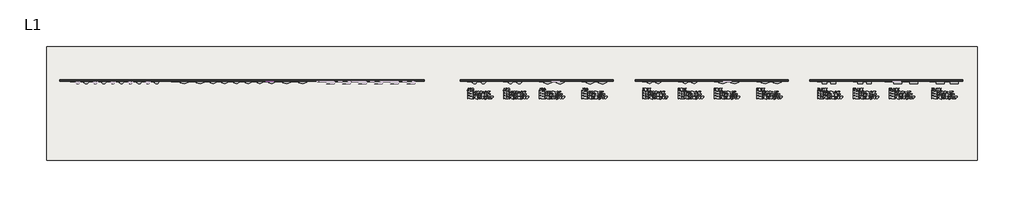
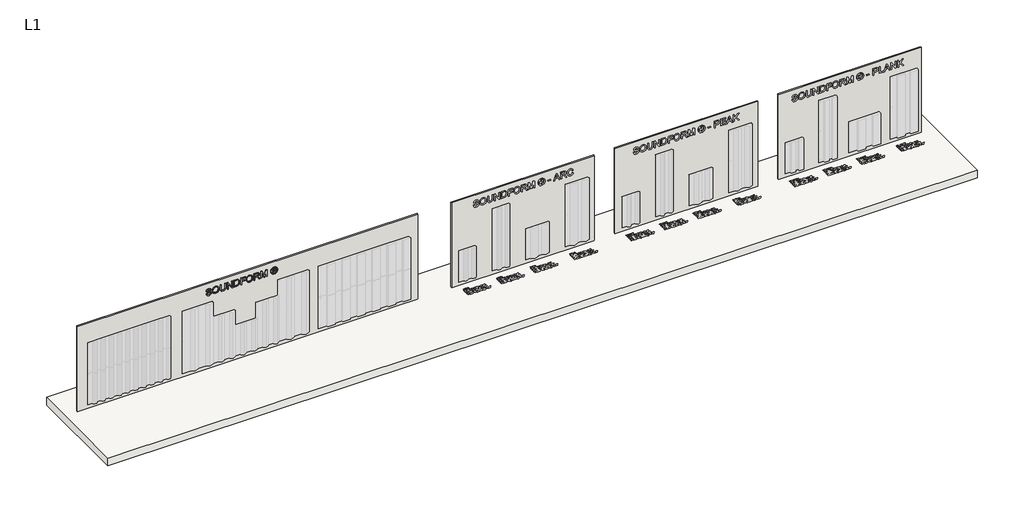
# One storey, part 1 of 17: 4 walls, 1 proxy, 1 slab.
"""IFC4 building model written with IfcOpenShell, lengths in millimetres."""

from ifc_helpers import new_model, si_unit, frame, origin, origin_with_axes, place, context, project, spatial, polyline, outline, extrude, element, save

model = new_model("IFC4")

# Units and contexts
model_context = context("Model", 3, world=origin())
ifc_project = project(units=[si_unit("LENGTHUNIT", "METRE", prefix="MILLI")], contexts=[model_context])

# Site, building, storey
site = spatial("IfcSite", under=ifc_project)
building = spatial("IfcBuilding", under=site)
storey = spatial("IfcBuildingStorey", under=building, Name="L1", Elevation=0.0)

# Proxy
placement = place(None, origin())
element("IfcBuildingElementProxy", 1, Name="10\" Arial", ObjectType="10\" Arial", at=placement, inside=storey, context=model_context, shape_type="SweptSolid", body=[
    extrude(outline(polyline([(2966.4315697, -7877.4400727), (2940.6727176, -7873.6556706), (2917.7171264, -7863.6729474), (2898.8729843, -7848.1226368), (2885.4484798, -7827.6354724), (2877.4124655, -7801.9155546), (2874.7337941, -7770.6669834), (2877.2177946, -7745.211818), (2884.6697962, -7722.4197503), (2896.5992283, -7703.4665925), (2912.5155202, -7689.5281569), (2931.0092547, -7680.9548509), (2950.6710145, -7678.0970822), (2969.9044983, -7680.5810828), (2986.7396368, -7688.0330844), (3001.0206932, -7700.7178396), (3012.5919309, -7718.9001006), (3028.6016648, -7775.3390848), (3037.6032467, -7809.4142772), (3046.4179446, -7827.417441), (3056.2760784, -7835.0329662), (3068.5325576, -7837.5714746), (3082.907056, -7833.9895302), (3095.0077985, -7823.2436972), (3103.2306969, -7804.6643075), (3105.971663, -7777.5816934), (3103.1995495, -7751.1220262), (3094.8832091, -7732.044279), (3081.1472312, -7719.8345209), (3062.1162051, -7713.9788205), (3062.1162051, -7682.0839421), (3083.2496768, -7685.6814601), (3102.0470979, -7694.729763), (3117.5429006, -7709.0263931), (3128.7715175, -7728.3688926), (3135.5927855, -7751.9162834), (3137.8665415, -7778.8275871), (3135.6940143, -7803.6675926), (3129.176433, -7826.1092527), (3118.4617472, -7844.8054448), (3103.697907, -7858.4090466), (3086.2787558, -7866.7020265), (3067.5981373, -7869.4663531), (3050.8875882, -7867.2315313), (3035.8901429, -7860.5270658), (3022.8861275, -7849.2750885), (3012.1558681, -7833.3977307), (2996.4264603, -7783.4062464), (2984.2478494, -7736.9655591), (2977.636826, -7723.3541705), (2969.7643353, -7715.2870089), (2949.8611836, -7709.9919607), (2938.9051059, -7711.7595724), (2928.4629595, -7717.0624074), (2919.3679355, -7725.9783341), (2912.4532255, -7738.5852209), (2908.0848108, -7754.1433184), (2906.6286725, -7771.9128771), (2908.5520209, -7792.0963549), (2914.3220661, -7810.1618134), (2923.2146323, -7824.9412273), (2934.5055438, -7835.2665713), (2948.7320924, -7841.8853815), (2966.4315697, -7845.5451942), (2966.4315697, -7877.4400727)])), frame((0.0, -50.8, 0.0), z_axis=(0.0, 1.0, 0.0), x_axis=(0.0, 0.0, 1.0)), (0.0, 0.0, 1.0), 25.4),
    extrude(outline(polyline([(3002.9362548, -7642.215344), (2970.3016269, -7638.5711049), (2939.4268239, -7627.6383878), (2912.5933886, -7609.635224), (2892.0828637, -7584.7796448), (2879.0710615, -7554.5978702), (2874.7337941, -7520.6161198), (2878.6583592, -7488.6044388), (2890.4320546, -7458.8509401), (2909.8368488, -7433.4814298), (2936.6547105, -7414.6217141), (2969.2192568, -7402.9181002), (3005.864105, -7399.0168956), (3042.0261693, -7402.7234293), (3074.1390792, -7413.8430305), (3100.9102199, -7432.0330784), (3121.0469766, -7456.9509522), (3133.6616502, -7486.9614165), (3137.8665415, -7520.4292357), (3135.6278262, -7546.0751787), (3128.9116806, -7569.2526947), (3117.7181044, -7589.9617839), (3102.0470979, -7608.2024462), (3082.4203788, -7623.083089), (3059.3596653, -7633.7121195), (3032.8649573, -7640.0895379), (3002.9362548, -7642.215344)]), holes=[polyline([(3002.6247814, -7610.3204655), (3028.4790222, -7608.6579761), (3050.3502965, -7603.6705079), (3068.2386045, -7595.358061), (3082.1439462, -7583.7206352), (3092.5685723, -7569.7783061), (3100.0147338, -7554.5511492), (3105.971663, -7520.2423517), (3102.8802893, -7495.5502961), (3093.6061681, -7473.4278963), (3078.7099517, -7455.0898985), (3058.7522921, -7441.7510492), (3034.3483495, -7433.6215929), (3006.1132837, -7430.9117741), (2983.6443697, -7432.4944484), (2963.8930613, -7437.2424714), (2946.8593585, -7445.155843), (2932.5432613, -7456.2345633), (2921.2056287, -7469.7661368), (2913.1073197, -7485.0380681), (2908.2483343, -7502.0503571), (2906.6286725, -7520.8030038), (2908.2327607, -7539.2402837), (2913.045025, -7556.0540084), (2921.0654657, -7571.2441779), (2932.2940825, -7584.8107922), (2946.31428, -7595.9712743), (2962.7094623, -7603.9430472), (2981.4796294, -7608.7261109), (3002.6247814, -7610.3204655)])]), frame((0.0, -50.8, 0.0), z_axis=(0.0, 1.0, 0.0), x_axis=(0.0, 0.0, 1.0)), (0.0, 0.0, 1.0), 25.4),
    extrude(outline(polyline([(3133.8796816, -7187.7133257), (2987.7986465, -7187.7133257), (2947.8677537, -7191.7469066), (2933.695713, -7196.7888826), (2923.3859427, -7203.847649), (2916.054637, -7213.2736135), (2910.8179901, -7225.4171835), (2906.6286725, -7257.8571405), (2908.7466918, -7278.3209444), (2915.1007496, -7295.3585406), (2925.3560121, -7308.4248507), (2939.1776452, -7316.9747961), (2959.1353047, -7321.6936185), (2987.7986465, -7323.2665592), (3133.8796816, -7323.2665592), (3133.8796816, -7355.1614377), (2986.6773421, -7355.1614377), (2950.4607699, -7352.7397318), (2922.7941432, -7345.4746143), (2902.1668157, -7332.5484672), (2887.0681416, -7313.143673), (2877.8173809, -7287.2524448), (2874.7337941, -7254.8669956), (2878.2768042, -7221.7573708), (2888.9058348, -7195.6870453), (2905.1803211, -7176.6092982), (2925.6596986, -7164.4774084), (2952.2050211, -7157.9831875), (2986.6773421, -7155.8184473), (3133.8796816, -7155.8184473), (3133.8796816, -7187.7133257)])), frame((0.0, -50.8, 0.0), z_axis=(0.0, 1.0, 0.0), x_axis=(0.0, 0.0, 1.0)), (0.0, 0.0, 1.0), 25.4),
    extrude(outline(polyline([(2878.7206539, -7100.0024099), (2878.7206539, -7068.1075315), (3080.9291998, -7068.1075315), (2878.7206539, -6934.7969066), (2878.7206539, -6900.6594195), (3133.8796816, -6900.6594195), (3133.8796816, -6932.5542979), (2931.7334304, -6932.5542979), (3133.8796816, -7065.8649228), (3133.8796816, -7100.0024099), (2878.7206539, -7100.0024099)])), frame((0.0, -50.8, 0.0), z_axis=(0.0, 1.0, 0.0), x_axis=(0.0, 0.0, 1.0)), (0.0, 0.0, 1.0), 25.4),
    extrude(outline(polyline([(2878.7206539, -6844.8433821), (2878.7206539, -6752.5849544), (2883.0812818, -6711.5639046), (2895.8828394, -6681.0706566), (2919.0253147, -6657.7724445), (2935.6657823, -6648.0856211), (2956.1840941, -6640.3299329), (2980.2843501, -6635.2373424), (3007.6706508, -6633.5398123), (3039.9081501, -6636.0471733), (3068.3456735, -6643.5692565), (3092.5160111, -6656.1372091), (3111.9519527, -6673.7821785), (3123.1182749, -6690.9443641), (3130.2042953, -6711.2835785), (3133.8796816, -6756.8209929), (3133.8796816, -6844.8433821), (2878.7206539, -6844.8433821)]), holes=[polyline([(2910.6155323, -6812.9485037), (3101.9848032, -6812.9485037), (3101.9848032, -6757.3816451), (3100.7077621, -6730.5014887), (3096.876639, -6712.1557041), (3086.224248, -6694.1291798), (3068.5948523, -6679.0460793), (3042.9294423, -6668.8375379), (3008.1690083, -6665.4346907), (2981.9351593, -6667.1711551), (2959.9217751, -6672.3805481), (2942.0509875, -6680.7046753), (2928.2449281, -6691.7853423), (2915.225339, -6715.4573224), (2910.6155323, -6756.5095195), (2910.6155323, -6812.9485037)])]), frame((0.0, -50.8, 0.0), z_axis=(0.0, 1.0, 0.0), x_axis=(0.0, 0.0, 1.0)), (0.0, 0.0, 1.0), 25.4),
    extrude(outline(polyline([(2878.7206539, -6589.6843544), (2878.7206539, -6557.7894759), (2994.3395883, -6557.7894759), (2994.3395883, -6438.1836816), (3026.2344668, -6438.1836816), (3026.2344668, -6557.7894759), (3101.9848032, -6557.7894759), (3101.9848032, -6418.2493826), (3133.8796816, -6418.2493826), (3133.8796816, -6589.6843544), (2878.7206539, -6589.6843544)])), frame((0.0, -50.8, 0.0), z_axis=(0.0, 1.0, 0.0), x_axis=(0.0, 0.0, 1.0)), (0.0, 0.0, 1.0), 25.4),
    extrude(outline(polyline([(3002.9362548, -6386.3545041), (2970.3016269, -6382.7102651), (2939.4268239, -6371.7775479), (2912.5933886, -6353.7743841), (2892.0828637, -6328.918805), (2879.0710615, -6298.7370303), (2874.7337941, -6264.7552799), (2878.6583592, -6232.7435989), (2890.4320546, -6202.9901002), (2909.8368488, -6177.62059), (2936.6547105, -6158.7608742), (2969.2192568, -6147.0572604), (3005.864105, -6143.1560558), (3042.0261693, -6146.8625895), (3074.1390792, -6157.9821907), (3100.9102199, -6176.1722385), (3121.0469766, -6201.0901124), (3133.6616502, -6231.1005766), (3137.8665415, -6264.5683959), (3135.6278262, -6290.2143388), (3128.9116806, -6313.3918549), (3117.7181044, -6334.1009441), (3102.0470979, -6352.3416064), (3082.4203788, -6367.2222491), (3059.3596653, -6377.8512797), (3032.8649573, -6384.228698), (3002.9362548, -6386.3545041)]), holes=[polyline([(3002.6247814, -6354.4596256), (3028.4790222, -6352.7971362), (3050.3502965, -6347.8096681), (3068.2386045, -6339.4972211), (3082.1439462, -6327.8597953), (3092.5685723, -6313.9174663), (3100.0147338, -6298.6903093), (3105.971663, -6264.3815118), (3102.8802893, -6239.6894562), (3093.6061681, -6217.5670564), (3078.7099517, -6199.2290587), (3058.7522921, -6185.8902093), (3034.3483495, -6177.760753), (3006.1132837, -6175.0509342), (2983.6443697, -6176.6336086), (2963.8930613, -6181.3816315), (2946.8593585, -6189.2950032), (2932.5432613, -6200.3737235), (2921.2056287, -6213.905297), (2913.1073197, -6229.1772282), (2908.2483343, -6246.1895172), (2906.6286725, -6264.942164), (2908.2327607, -6283.3794439), (2913.045025, -6300.1931686), (2921.0654657, -6315.3833381), (2932.2940825, -6328.9499523), (2946.31428, -6340.1104344), (2962.7094623, -6348.0822073), (2981.4796294, -6352.8652711), (3002.6247814, -6354.4596256)])]), frame((0.0, -50.8, 0.0), z_axis=(0.0, 1.0, 0.0), x_axis=(0.0, 0.0, 1.0)), (0.0, 0.0, 1.0), 25.4),
    extrude(outline(polyline([(2878.7206539, -6099.3005979), (2878.7206539, -6067.4057194), (2990.3527285, -6067.4057194), (2990.3527285, -6028.9076044), (2989.2314242, -6010.406083), (2983.1576925, -5995.2373274), (2966.6184537, -5978.3866152), (2931.608841, -5954.4031617), (2878.7206539, -5921.2000948), (2878.7206539, -5884.1347575), (2947.8677537, -5926.6820271), (2980.6970524, -5952.5343211), (2994.3395883, -5970.6620743), (3002.7960918, -5939.2421928), (3018.0738631, -5917.2443824), (3038.9114351, -5904.2793011), (3064.0473403, -5899.9576074), (3084.2541786, -5902.5661973), (3102.6388974, -5910.3919671), (3117.4650323, -5922.5861516), (3126.996119, -5938.2999857), (3132.158791, -5959.7994387), (3133.8796816, -5989.3504797), (3133.8796816, -6099.3005979), (2878.7206539, -6099.3005979)]), holes=[polyline([(3022.247607, -6067.4057194), (3101.9848032, -6067.4057194), (3101.9848032, -5987.9799966), (3099.2282634, -5962.7428626), (3090.958644, -5945.3392851), (3078.4218388, -5935.2241857), (3062.8637413, -5931.8524859), (3051.5961902, -5933.6200975), (3041.2163384, -5938.9229326), (3032.6352456, -5947.6286147), (3026.7639716, -5959.6047678), (3022.247607, -5996.0160109), (3022.247607, -6067.4057194)])]), frame((0.0, -50.8, 0.0), z_axis=(0.0, 1.0, 0.0), x_axis=(0.0, 0.0, 1.0)), (0.0, 0.0, 1.0), 25.4),
    extrude(outline(polyline([(2878.7206539, -5844.1415701), (2878.7206539, -5812.2466916), (3101.9848032, -5812.2466916), (2878.7206539, -5748.0831665), (2878.7206539, -5704.9129502), (3101.9848032, -5640.8117198), (2878.7206539, -5640.8117198), (2878.7206539, -5608.9168413), (3133.8796816, -5608.9168413), (3133.8796816, -5663.7984584), (2957.1496617, -5715.1292784), (2916.4712327, -5726.5292057), (2954.0349274, -5737.1193021), (3133.8796816, -5789.4468371), (3133.8796816, -5844.1415701), (2878.7206539, -5844.1415701)])), frame((0.0, -50.8, 0.0), z_axis=(0.0, 1.0, 0.0), x_axis=(0.0, 0.0, 1.0)), (0.0, 0.0, 1.0), 25.4),
    extrude(outline(polyline([(2926.5629716, -5409.5738509), (2926.5629716, -5385.652692), (2994.3395883, -5385.652692), (2994.3395883, -5370.7642624), (2993.0936946, -5358.9749934), (2988.483888, -5350.3939006), (2951.8546135, -5326.8465098), (2926.5629716, -5312.8302058), (2926.5629716, -5285.9811968), (2958.0217873, -5303.8597713), (2989.854371, -5325.6006162), (2998.3264481, -5338.0595531), (3002.7182234, -5320.0875366), (3012.7788149, -5306.0400852), (3026.795119, -5296.9762086), (3043.0540316, -5293.9549164), (3055.0379716, -5295.7069544), (3066.3210963, -5300.9630684), (3075.618578, -5309.17818), (3081.6455887, -5319.8072105), (3086.0373639, -5358.0561468), (3086.0373639, -5409.5738509), (2926.5629716, -5409.5738509)]), holes=[polyline([(3018.2607472, -5385.652692), (3062.1162051, -5385.652692), (3062.1162051, -5357.3086106), (3059.6244177, -5332.2350001), (3052.0244662, -5321.676051), (3040.4376549, -5317.8760753), (3031.3971388, -5319.8539315), (3024.3344789, -5325.7875002), (3019.7791801, -5337.1407065), (3018.2607472, -5355.3774754), (3018.2607472, -5385.652692)])]), frame((0.0, -50.8, 0.0), z_axis=(0.0, 1.0, 0.0), x_axis=(0.0, 0.0, 1.0)), (0.0, 0.0, 1.0), 25.4),
    extrude(outline(polyline([(3137.8665415, -5349.7086591), (3133.6149292, -5382.4133684), (3120.8600926, -5414.3705416), (3100.193831, -5442.481018), (3072.207944, -5463.645637), (3039.8925764, -5476.9144048), (3006.2378731, -5481.3373274), (2972.8790695, -5476.9766995), (2940.8284543, -5463.8948158), (2912.9437962, -5442.9871623), (2892.0828637, -5415.1492252), (2879.0710615, -5383.1375441), (2874.7337941, -5349.7086591), (2879.0710615, -5316.233053), (2892.0828637, -5284.2057983), (2912.9437962, -5256.3912217), (2940.8284543, -5235.5536497), (2972.8790695, -5222.5418475), (3006.2378731, -5218.2045801), (3039.8925764, -5222.6041421), (3072.207944, -5235.8028284), (3100.193831, -5256.897366), (3120.8600926, -5284.9844819), (3133.6149292, -5316.9572287), (3137.8665415, -5349.7086591)]), holes=[polyline([(3113.9453826, -5349.7086591), (3110.4646671, -5322.9764526), (3100.0225206, -5296.8516193), (3083.1017269, -5273.8726675), (3060.1850699, -5256.5781057), (3033.7409763, -5245.7388306), (3006.2378731, -5242.1257389), (2978.9138671, -5245.6765359), (2952.7578864, -5256.328927), (2930.0125397, -5273.3898837), (2912.9204357, -5296.1663777), (2902.2213236, -5322.3690794), (2898.6549529, -5349.7086591), (2902.2213236, -5377.0093046), (2912.9204357, -5403.2197931), (2930.0125397, -5426.0352213), (2952.7578864, -5443.1506858), (2978.9138671, -5453.8497979), (3006.2378731, -5457.4161686), (3033.7409763, -5453.7797164), (3060.1850699, -5442.8703598), (3083.1017269, -5425.529077), (3100.0225206, -5402.5968462), (3110.4646671, -5376.5109471), (3113.9453826, -5349.7086591)])]), frame((0.0, -50.8, 0.0), z_axis=(0.0, 1.0, 0.0), x_axis=(0.0, 0.0, 1.0)), (0.0, 0.0, 1.0), 25.4),
])

# Slab
element("IfcSlab", 2, ObjectType="Generic - 12\"", at=placement, inside=storey, context=model_context, shape_type="SweptSolid", body=[
    extrude(outline(polyline([(19204.5931972, 1172.6688092), (19204.5931972, -2768.6), (-13104.2068028, -2768.6), (-13104.2068028, 1172.6688092), (19204.5931972, 1172.6688092)])), frame((0.0, 0.0, -304.8), z_axis=(0.0, 0.0, 1.0), x_axis=(1.0, 0.0, 0.0)), (0.0, 0.0, 1.0), 304.8),
])

# Walls
element("IfcWall", 3, ObjectType="Generic - 2\"", at=placement, inside=storey, context=model_context, shape_type="SweptSolid", body=[
    extrude(outline(polyline([(18700.75, -25.4), (13392.15, -25.4), (13392.15, 25.4), (18700.75, 25.4), (18700.75, -25.4)])), origin_with_axes(), (0.0, 0.0, 1.0), 3339.6133295),
])
element("IfcWall", 4, ObjectType="Generic - 2\"", at=placement, inside=storey, context=model_context, shape_type="SweptSolid", body=[
    extrude(outline(polyline([(6559.55, -25.4), (1250.95, -25.4), (1250.95, 25.4), (6559.55, 25.4), (6559.55, -25.4)])), origin_with_axes(), (0.0, 0.0, 1.0), 3339.6133295),
])
element("IfcWall", 5, ObjectType="Generic - 2\"", at=placement, inside=storey, context=model_context, shape_type="SweptSolid", body=[
    extrude(outline(polyline([(12630.15, -25.4), (7321.55, -25.4), (7321.55, 25.4), (12630.15, 25.4), (12630.15, -25.4)])), origin_with_axes(), (0.0, 0.0, 1.0), 3339.6133295),
])
element("IfcWall", 6, ObjectType="Generic - 2\"", at=placement, inside=storey, context=model_context, shape_type="SweptSolid", body=[
    extrude(outline(polyline([(-12650.0100552, 25.4), (-0.8100552, 25.4), (-0.8100552, -25.4), (-12650.0100552, -25.4), (-12650.0100552, 25.4)])), origin_with_axes(), (0.0, 0.0, 1.0), 3339.6133295),
])

save(model, "model.ifc")
